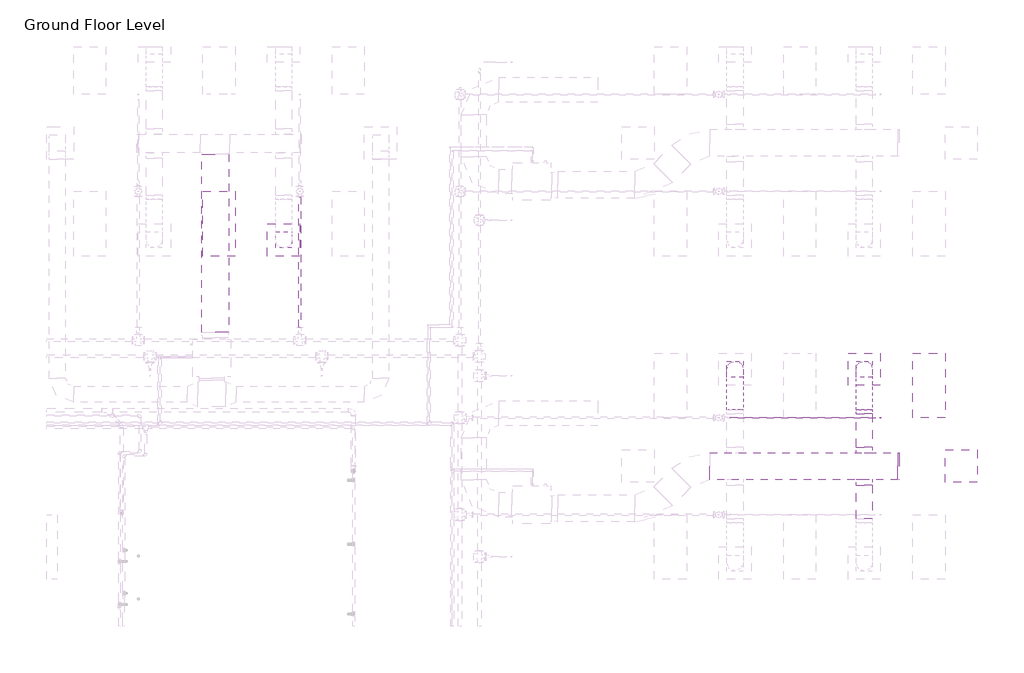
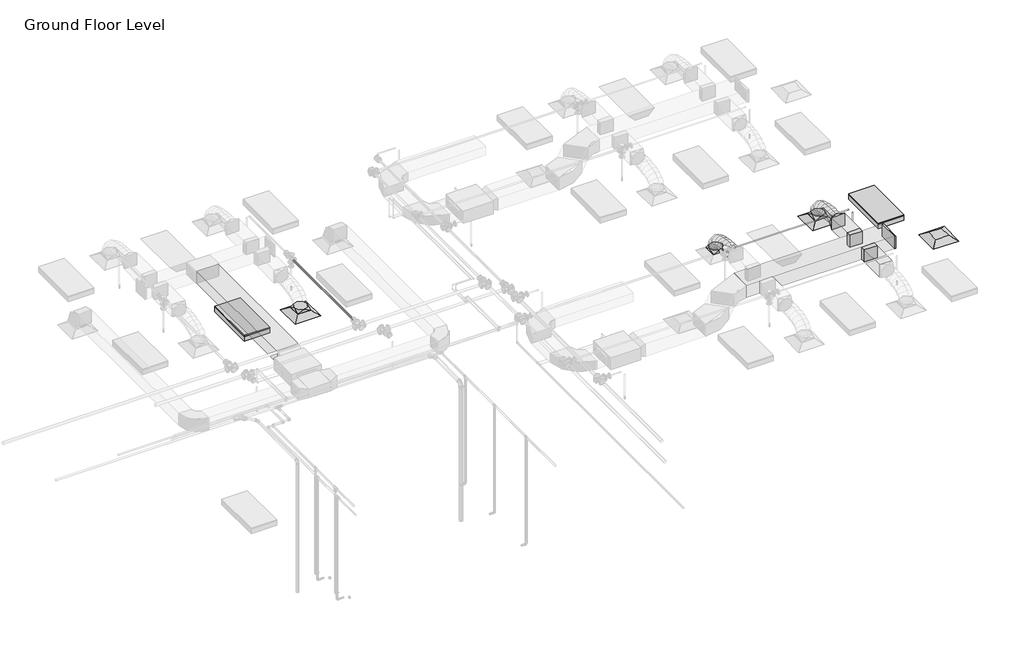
# One storey, part 70 of 74: 7 duct fittings, 6 duct segments, 3 air terminals, 3 pipe segments, 2 light fixtures, 1 fire suppression terminal.
"""IFC4 building model written with IfcOpenShell, lengths in millimetres."""

from ifc_helpers import new_model, si_unit, point, frame, frame_2d, origin, place, context, project, spatial, polyline, circle_curve, ellipse_curve, trimmed, segment, composite_curve, outline, extrude, transform, mapped, element, save
from ifc_brep_helpers import plane_surface, cylinder_surface, advanced_brep
from components import m_return_diffuser_600_x_600_face_300_x_300_connection_ff221211, m_rectangular_endcap_standard_72d4d00d, m_rectangular_takeoff_standard_cb0ccb98, m_rectangular_takeoff_standard_2be5eba1, m_rectangular_to_round_transition_angle_45_degree_641efff0, m_sprinkler_dry_pendent_hosted_15_mm_dry_pendent_9bda8e11, m_troffer_light_parabolic_rectangular1_0600x1200mm_4_lamp_86473d4a

model = new_model("IFC4")

# Units and contexts
model_context = context("Model", 3, world=origin())
ifc_project = project(units=[si_unit("LENGTHUNIT", "METRE", prefix="MILLI")], contexts=[model_context])

# Site, building, storey
site = spatial("IfcSite", under=ifc_project)
building = spatial("IfcBuilding", under=site)
storey = spatial("IfcBuildingStorey", under=building, Name="Ground Floor Level", Elevation=900.0)

# Air terminals
placement = place(None, origin())
m_return_diffuser_600_x_600_face_300_x_300_connection_shape = m_return_diffuser_600_x_600_face_300_x_300_connection_ff221211(model_context)
element("IfcAirTerminal", 1, ObjectType="M_Return Diffuser : 600 x 600 Face 300 x 300 Connection", at=placement, inside=storey, context=model_context, shape_type="MappedRepresentation", body=[
    mapped(m_return_diffuser_600_x_600_face_300_x_300_connection_shape, transform((14942.7672395, 12735.2153534, 3650.0), x_axis=(1.0, 0.0, 0.0), y_axis=(0.0, 1.0, 0.0), z_axis=(0.0, 0.0, 1.0))),
])
element("IfcAirTerminal", 2, ObjectType="M_Supply Diffuser : 600 x 600 Face 300 x 300 Connection", at=placement, inside=storey, context=model_context, shape_type="MappedRepresentation", body=[
    mapped(m_return_diffuser_600_x_600_face_300_x_300_connection_shape, transform((2362.7672395, 16935.2153534, 3650.0), x_axis=(1.0, 0.0, 0.0), y_axis=(0.0, 1.0, 0.0), z_axis=(0.0, 0.0, 1.0))),
])
element("IfcAirTerminal", 3, ObjectType="M_Supply Diffuser : 600 x 600 Face 300 x 300 Connection", at=placement, inside=storey, context=model_context, shape_type="MappedRepresentation", body=[
    mapped(m_return_diffuser_600_x_600_face_300_x_300_connection_shape, transform((13142.7672395, 14535.2153534, 3650.0), x_axis=(1.0, 0.0, 0.0), y_axis=(0.0, 1.0, 0.0), z_axis=(0.0, 0.0, 1.0))),
])

# Duct fittings
m_rectangular_endcap_standard_shape = m_rectangular_endcap_standard_72d4d00d(model_context)
element("IfcDuctFitting", 4, ObjectType="M_Rectangular Endcap : Standard", at=placement, inside=storey, context=model_context, shape_type="MappedRepresentation", body=[
    mapped(m_rectangular_endcap_standard_shape, transform((13766.7301365, 12735.2153534, 4100.0), x_axis=(1.0, 0.0, 0.0), y_axis=(0.0, 1.0, 0.0), z_axis=(0.0, 0.0, 1.0))),
])
m_rectangular_takeoff_standard_shape = m_rectangular_takeoff_standard_cb0ccb98(model_context)
element("IfcDuctFitting", 5, ObjectType="M_Rectangular Takeoff : Standard", at=placement, inside=storey, context=model_context, shape_type="MappedRepresentation", body=[
    mapped(m_rectangular_takeoff_standard_shape, transform((13142.7672395, 12985.2153534, 4100.0), x_axis=(0.0, 1.0, 0.0), y_axis=(1.0, 0.0, 0.0), z_axis=(0.0, 0.0, -1.0))),
])
m_rectangular_takeoff_standard_2_shape = m_rectangular_takeoff_standard_2be5eba1(model_context)
element("IfcDuctFitting", 6, ObjectType="M_Rectangular Takeoff : Standard", at=placement, inside=storey, context=model_context, shape_type="MappedRepresentation", body=[
    mapped(m_rectangular_takeoff_standard_2_shape, transform((13142.7672395, 12485.2153534, 4100.0), x_axis=(0.0, -1.0, 0.0), y_axis=(-1.0, 0.0, 0.0), z_axis=(0.0, 0.0, -1.0))),
])
m_rectangular_to_round_transition_angle_45_degree_shape = m_rectangular_to_round_transition_angle_45_degree_641efff0(model_context)
element("IfcDuctFitting", 7, ObjectType="M_Rectangular to Round Transition - Angle : 45 Degree", at=placement, inside=storey, context=model_context, shape_type="MappedRepresentation", body=[
    mapped(m_rectangular_to_round_transition_angle_45_degree_shape, transform((2362.7672395, 16935.2153534, 3751.6), x_axis=(0.0, 0.0, 1.0), y_axis=(-1.0, 0.0, 0.0), z_axis=(0.0, -1.0, 0.0))),
])
element("IfcDuctFitting", 8, ObjectType="M_Rectangular to Round Transition - Angle : 45 Degree", at=placement, inside=storey, context=model_context, shape_type="MappedRepresentation", body=[
    mapped(m_rectangular_to_round_transition_angle_45_degree_shape, transform((10742.7672395, 14535.2153534, 3751.6), x_axis=(0.0, 0.0, 1.0), y_axis=(-1.0, 0.0, 0.0), z_axis=(0.0, -1.0, 0.0))),
])
element("IfcDuctFitting", 9, ObjectType="M_Rectangular to Round Transition - Angle : 45 Degree", at=placement, inside=storey, context=model_context, shape_type="MappedRepresentation", body=[
    mapped(m_rectangular_to_round_transition_angle_45_degree_shape, transform((13142.7672395, 14535.2153534, 3751.6), x_axis=(0.0, 0.0, 1.0), y_axis=(-1.0, 0.0, 0.0), z_axis=(0.0, -1.0, 0.0))),
])
element("IfcDuctFitting", 10, ObjectType="M_Rectangular to Round Transition - Angle : 45 Degree", at=placement, inside=storey, context=model_context, shape_type="MappedRepresentation", body=[
    mapped(m_rectangular_to_round_transition_angle_45_degree_shape, transform((13142.7672395, 13707.8794221, 4100.0), x_axis=(0.0, 1.0, 0.0), y_axis=(-1.0, 0.0, 0.0), z_axis=(0.0, 0.0, 1.0))),
])

# Duct segments
element("IfcDuctSegment", 11, ObjectType="Flex - Round", at=placement, inside=storey, context=model_context, shape_type="AdvancedBrep", body=[
    advanced_brep(
    [(10892.7672395, 14535.2153534, 3826.6), (10742.7672395, 14385.2153534, 3826.6), (10592.7672395, 14535.2153534, 3826.6), (10742.7672395, 14685.2153534, 3826.6), (10892.7672395, 14535.2153534, 3857.9377114), (10742.7672395, 14385.2153534, 3832.2944892), (10592.7672395, 14535.2153534, 3857.9377114), (10742.7672395, 14685.2153534, 3883.5809337), (10892.7672395, 14518.1994208, 3906.2505728), (10742.7672395, 14384.4614419, 3834.435049), (10592.7672395, 14518.1994208, 3906.2505728), (10742.7672395, 14651.9373998, 3978.0660967), (10892.7672395, 14471.0155405, 3968.7113131), (10742.7672395, 14366.8096412, 3857.8020236), (10592.7672395, 14471.0155405, 3968.7113131), (10742.7672395, 14575.2214397, 4079.6206026), (10892.7672395, 14399.4595883, 4016.0700639), (10742.7672395, 14330.5255327, 3881.8163788), (10592.7672395, 14399.4595883, 4016.0700639), (10742.7672395, 14468.3936439, 4150.3237489), (10892.7672395, 14309.3274403, 4050.4146682), (10742.7672395, 14265.7666771, 3906.4925606), (10592.7672395, 14309.3274403, 4050.4146682), (10742.7672395, 14352.8882035, 4194.3367758), (10892.7672395, 14206.4149725, 4073.8329691), (10742.7672395, 14179.8540485, 3926.0424542), (10592.7672395, 14206.4149725, 4073.8329691), (10742.7672395, 14232.9758965, 4221.6234841), (10892.7672395, 14096.5180607, 4088.4128097), (10742.7672395, 14081.3671584, 3939.1085462), (10592.7672395, 14096.5180607, 4088.4128097), (10742.7672395, 14111.6689631, 4237.7170733), (10892.7672395, 13985.4325811, 4096.242033), (10742.7672395, 13977.9272529, 3946.398915), (10592.7672395, 13985.4325811, 4096.242033), (10742.7672395, 13992.9379093, 4246.085151), (10892.7672395, 13878.9544096, 4099.4084821), (10742.7672395, 13876.2629165, 3949.4222102), (10592.7672395, 13878.9544096, 4099.4084821), (10742.7672395, 13881.6459027, 4249.394754), (10892.7672395, 13782.8794221, 4100.0), (10742.7672395, 13783.8029299, 4249.9971571), (10592.7672395, 13782.8794221, 4100.0), (10742.7672395, 13781.9559143, 3950.0028429)],
    [
        (0, 1, circle_curve(frame((10742.7672395, 14535.2153534, 3826.6), z_axis=(0.0, 0.0, -1.0), x_axis=(1.0, 0.0, 0.0)), 150.0)),
        (1, 2, circle_curve(frame((10742.7672395, 14535.2153534, 3826.6), z_axis=(0.0, 0.0, -1.0), x_axis=(1.0, 0.0, 0.0)), 150.0)),
        (2, 3, circle_curve(frame((10742.7672395, 14535.2153534, 3826.6), z_axis=(0.0, 0.0, -1.0), x_axis=(1.0, 0.0, 0.0)), 150.0)),
        (3, 0, circle_curve(frame((10742.7672395, 14535.2153534, 3826.6), z_axis=(0.0, 0.0, -1.0), x_axis=(1.0, 0.0, 0.0)), 150.0)),
        (0, 4),
        (4, 5, ellipse_curve(frame((10742.7672395, 14535.2153534, 3857.9377114), z_axis=(0.0, 0.16851014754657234, -0.9856999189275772), x_axis=(0.0, -0.9856999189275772, -0.1685101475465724)), 152.176131, 150.0)),
        (5, 1),
        (5, 6, ellipse_curve(frame((10742.7672395, 14535.2153534, 3857.9377114), z_axis=(0.0, 0.16851014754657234, -0.9856999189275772), x_axis=(0.0, -0.9856999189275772, -0.1685101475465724)), 152.176131, 150.0)),
        (6, 2),
        (6, 7, ellipse_curve(frame((10742.7672395, 14535.2153534, 3857.9377114), z_axis=(0.0, 0.16851014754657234, -0.9856999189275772), x_axis=(0.0, -0.9856999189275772, -0.1685101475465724)), 152.176131, 150.0)),
        (7, 3),
        (7, 4, ellipse_curve(frame((10742.7672395, 14535.2153534, 3857.9377114), z_axis=(0.0, 0.16851014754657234, -0.9856999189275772), x_axis=(0.0, -0.9856999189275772, -0.1685101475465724)), 152.176131, 150.0)),
        (4, 8),
        (8, 9, ellipse_curve(frame((10742.7672395, 14518.1994208, 3906.2505728), z_axis=(0.0, 0.47309225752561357, -0.8810128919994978), x_axis=(0.0, -0.8810128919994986, -0.47309225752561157)), 151.8002519, 150.0)),
        (9, 5),
        (9, 10, ellipse_curve(frame((10742.7672395, 14518.1994208, 3906.2505728), z_axis=(0.0, 0.47309225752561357, -0.8810128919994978), x_axis=(0.0, -0.8810128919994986, -0.47309225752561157)), 151.8002519, 150.0)),
        (10, 6),
        (10, 11, ellipse_curve(frame((10742.7672395, 14518.1994208, 3906.2505728), z_axis=(0.0, 0.47309225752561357, -0.8810128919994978), x_axis=(0.0, -0.8810128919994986, -0.47309225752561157)), 151.8002519, 150.0)),
        (11, 7),
        (11, 8, ellipse_curve(frame((10742.7672395, 14518.1994208, 3906.2505728), z_axis=(0.0, 0.47309225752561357, -0.8810128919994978), x_axis=(0.0, -0.8810128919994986, -0.47309225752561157)), 151.8002519, 150.0)),
        (8, 12),
        (12, 13, ellipse_curve(frame((10742.7672395, 14471.0155405, 3968.7113131), z_axis=(0.0, 0.7287877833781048, -0.6847396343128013), x_axis=(0.0, -0.6847396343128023, -0.7287877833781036)), 152.1832446, 150.0)),
        (13, 9),
        (13, 14, ellipse_curve(frame((10742.7672395, 14471.0155405, 3968.7113131), z_axis=(0.0, 0.7287877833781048, -0.6847396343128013), x_axis=(0.0, -0.6847396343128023, -0.7287877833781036)), 152.1832446, 150.0)),
        (14, 10),
        (14, 15, ellipse_curve(frame((10742.7672395, 14471.0155405, 3968.7113131), z_axis=(0.0, 0.7287877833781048, -0.6847396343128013), x_axis=(0.0, -0.6847396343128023, -0.7287877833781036)), 152.1832446, 150.0)),
        (15, 11),
        (15, 12, ellipse_curve(frame((10742.7672395, 14471.0155405, 3968.7113131), z_axis=(0.0, 0.7287877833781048, -0.6847396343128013), x_axis=(0.0, -0.6847396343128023, -0.7287877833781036)), 152.1832446, 150.0)),
        (12, 16),
        (16, 17, ellipse_curve(frame((10742.7672395, 14399.4595883, 4016.0700639), z_axis=(0.0, 0.8895859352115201, -0.45676784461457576), x_axis=(0.0, -0.45676784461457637, -0.8895859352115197)), 150.91705, 150.0)),
        (17, 13),
        (17, 18, ellipse_curve(frame((10742.7672395, 14399.4595883, 4016.0700639), z_axis=(0.0, 0.8895859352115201, -0.45676784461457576), x_axis=(0.0, -0.45676784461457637, -0.8895859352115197)), 150.91705, 150.0)),
        (18, 14),
        (18, 19, ellipse_curve(frame((10742.7672395, 14399.4595883, 4016.0700639), z_axis=(0.0, 0.8895859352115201, -0.45676784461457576), x_axis=(0.0, -0.45676784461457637, -0.8895859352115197)), 150.91705, 150.0)),
        (19, 15),
        (19, 16, ellipse_curve(frame((10742.7672395, 14399.4595883, 4016.0700639), z_axis=(0.0, 0.8895859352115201, -0.45676784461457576), x_axis=(0.0, -0.45676784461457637, -0.8895859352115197)), 150.91705, 150.0)),
        (16, 20),
        (20, 21, ellipse_curve(frame((10742.7672395, 14309.3274403, 4050.4146682), z_axis=(0.0, 0.9571203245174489, -0.2896906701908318), x_axis=(0.0, -0.28969067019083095, -0.9571203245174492)), 150.369921, 150.0)),
        (21, 17),
        (21, 22, ellipse_curve(frame((10742.7672395, 14309.3274403, 4050.4146682), z_axis=(0.0, 0.9571203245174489, -0.2896906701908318), x_axis=(0.0, -0.28969067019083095, -0.9571203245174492)), 150.369921, 150.0)),
        (22, 18),
        (22, 23, ellipse_curve(frame((10742.7672395, 14309.3274403, 4050.4146682), z_axis=(0.0, 0.9571203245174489, -0.2896906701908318), x_axis=(0.0, -0.28969067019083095, -0.9571203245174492)), 150.369921, 150.0)),
        (23, 19),
        (23, 20, ellipse_curve(frame((10742.7672395, 14309.3274403, 4050.4146682), z_axis=(0.0, 0.9571203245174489, -0.2896906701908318), x_axis=(0.0, -0.28969067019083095, -0.9571203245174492)), 150.369921, 150.0)),
        (20, 24),
        (24, 25, ellipse_curve(frame((10742.7672395, 14206.4149725, 4073.8329691), z_axis=(0.0, 0.9842313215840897, -0.17688613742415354), x_axis=(0.0, -0.1768861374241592, -0.9842313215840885)), 150.1583131, 150.0)),
        (25, 21),
        (25, 26, ellipse_curve(frame((10742.7672395, 14206.4149725, 4073.8329691), z_axis=(0.0, 0.9842313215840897, -0.17688613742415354), x_axis=(0.0, -0.1768861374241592, -0.9842313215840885)), 150.1583131, 150.0)),
        (26, 22),
        (26, 27, ellipse_curve(frame((10742.7672395, 14206.4149725, 4073.8329691), z_axis=(0.0, 0.9842313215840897, -0.17688613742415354), x_axis=(0.0, -0.1768861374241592, -0.9842313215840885)), 150.1583131, 150.0)),
        (27, 23),
        (27, 24, ellipse_curve(frame((10742.7672395, 14206.4149725, 4073.8329691), z_axis=(0.0, 0.9842313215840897, -0.17688613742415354), x_axis=(0.0, -0.1768861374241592, -0.9842313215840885)), 150.1583131, 150.0)),
        (24, 28),
        (28, 29, ellipse_curve(frame((10742.7672395, 14096.5180607, 4088.4128097), z_axis=(0.0, 0.9948906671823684, -0.10095821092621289), x_axis=(0.0, -0.10095821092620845, -0.9948906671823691)), 150.0710264, 150.0)),
        (29, 25),
        (29, 30, ellipse_curve(frame((10742.7672395, 14096.5180607, 4088.4128097), z_axis=(0.0, 0.9948906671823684, -0.10095821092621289), x_axis=(0.0, -0.10095821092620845, -0.9948906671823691)), 150.0710264, 150.0)),
        (30, 26),
        (30, 31, ellipse_curve(frame((10742.7672395, 14096.5180607, 4088.4128097), z_axis=(0.0, 0.9948906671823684, -0.10095821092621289), x_axis=(0.0, -0.10095821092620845, -0.9948906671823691)), 150.0710264, 150.0)),
        (31, 27),
        (31, 28, ellipse_curve(frame((10742.7672395, 14096.5180607, 4088.4128097), z_axis=(0.0, 0.9948906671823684, -0.10095821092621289), x_axis=(0.0, -0.10095821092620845, -0.9948906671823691)), 150.0710264, 150.0)),
        (28, 32),
        (32, 33, ellipse_curve(frame((10742.7672395, 13985.4325811, 4096.242033), z_axis=(0.0, 0.9987479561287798, -0.050025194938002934), x_axis=(0.0, -0.05002519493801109, -0.9987479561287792)), 150.0309634, 150.0)),
        (33, 29),
        (33, 34, ellipse_curve(frame((10742.7672395, 13985.4325811, 4096.242033), z_axis=(0.0, 0.9987479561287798, -0.050025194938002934), x_axis=(0.0, -0.05002519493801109, -0.9987479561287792)), 150.0309634, 150.0)),
        (34, 30),
        (34, 35, ellipse_curve(frame((10742.7672395, 13985.4325811, 4096.242033), z_axis=(0.0, 0.9987479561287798, -0.050025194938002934), x_axis=(0.0, -0.05002519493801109, -0.9987479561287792)), 150.0309634, 150.0)),
        (35, 31),
        (35, 32, ellipse_curve(frame((10742.7672395, 13985.4325811, 4096.242033), z_axis=(0.0, 0.9987479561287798, -0.050025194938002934), x_axis=(0.0, -0.05002519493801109, -0.9987479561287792)), 150.0309634, 150.0)),
        (32, 36),
        (36, 37, ellipse_curve(frame((10742.7672395, 13878.9544096, 4099.4084821), z_axis=(0.0, 0.9998390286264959, -0.017942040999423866), x_axis=(0.0, -0.017942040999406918, -0.9998390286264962)), 150.0104193, 150.0)),
        (37, 33),
        (37, 38, ellipse_curve(frame((10742.7672395, 13878.9544096, 4099.4084821), z_axis=(0.0, 0.9998390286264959, -0.017942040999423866), x_axis=(0.0, -0.017942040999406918, -0.9998390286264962)), 150.0104193, 150.0)),
        (38, 34),
        (38, 39, ellipse_curve(frame((10742.7672395, 13878.9544096, 4099.4084821), z_axis=(0.0, 0.9998390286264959, -0.017942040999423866), x_axis=(0.0, -0.017942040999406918, -0.9998390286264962)), 150.0104193, 150.0)),
        (39, 35),
        (39, 36, ellipse_curve(frame((10742.7672395, 13878.9544096, 4099.4084821), z_axis=(0.0, 0.9998390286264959, -0.017942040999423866), x_axis=(0.0, -0.017942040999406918, -0.9998390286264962)), 150.0104193, 150.0)),
        (40, 41, circle_curve(frame((10742.7672395, 13782.8794221, 4100.0), z_axis=(0.0, -0.9999810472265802, 0.006156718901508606), x_axis=(1.0, 0.0, 0.0)), 150.0)),
        (41, 42, circle_curve(frame((10742.7672395, 13782.8794221, 4100.0), z_axis=(0.0, -0.9999810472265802, 0.006156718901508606), x_axis=(1.0, 0.0, 0.0)), 150.0)),
        (42, 43, circle_curve(frame((10742.7672395, 13782.8794221, 4100.0), z_axis=(0.0, -0.9999810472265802, 0.006156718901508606), x_axis=(1.0, 0.0, 0.0)), 150.0)),
        (43, 40, circle_curve(frame((10742.7672395, 13782.8794221, 4100.0), z_axis=(0.0, -0.9999810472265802, 0.006156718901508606), x_axis=(1.0, 0.0, 0.0)), 150.0)),
        (36, 40),
        (43, 37),
        (42, 38),
        (41, 39),
    ],
    [
        plane_surface(frame((10742.7672395, 14385.2153534, 3826.6), z_axis=(0.0, 0.0, -1.0), x_axis=(1.0, 0.0, 0.0))),
        cylinder_surface(frame((10742.7672395, 14535.2153534, 3826.6), z_axis=(0.0, 0.0, -1.0), x_axis=(1.0, 0.0, 0.0)), 150.0),
        cylinder_surface(frame((10742.7672395, 14535.2153534, 3857.9377114), z_axis=(0.0, 0.3322008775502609, -0.9432086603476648), x_axis=(1.0, 0.0, 0.0)), 150.0),
        cylinder_surface(frame((10742.7672395, 14518.1994208, 3906.2505728), z_axis=(0.0, 0.6027625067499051, -0.7979206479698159), x_axis=(1.0, 0.0, 0.0)), 150.0),
        cylinder_surface(frame((10742.7672395, 14471.0155405, 3968.7113131), z_axis=(0.0, 0.833902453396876, -0.5519118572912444), x_axis=(1.0, 0.0, 0.0)), 150.0),
        cylinder_surface(frame((10742.7672395, 14399.4595883, 4016.0700639), z_axis=(0.0, 0.9344582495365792, -0.35607271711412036), x_axis=(1.0, 0.0, 0.0)), 150.0),
        cylinder_surface(frame((10742.7672395, 14309.3274403, 4050.4146682), z_axis=(0.0, 0.9750732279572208, -0.22188330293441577), x_axis=(1.0, 0.0, 0.0)), 150.0),
        cylinder_surface(frame((10742.7672395, 14206.4149725, 4073.8329691), z_axis=(0.0, 0.9913140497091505, -0.131515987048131), x_axis=(1.0, 0.0, 0.0)), 150.0),
        cylinder_surface(frame((10742.7672395, 14096.5180607, 4088.4128097), z_axis=(0.0, 0.9975255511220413, -0.07030487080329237), x_axis=(1.0, 0.0, 0.0)), 150.0),
        cylinder_surface(frame((10742.7672395, 13985.4325811, 4096.242033), z_axis=(0.0, 0.9995581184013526, -0.029724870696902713), x_axis=(1.0, 0.0, 0.0)), 150.0),
        plane_surface(frame((10742.7672395, 13781.9559143, 3950.0028429), z_axis=(0.0, -0.9999810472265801, 0.0061567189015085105), x_axis=(1.0, 0.0, 0.0))),
        cylinder_surface(frame((10742.7672395, 13878.9544096, 4099.4084821), z_axis=(0.0, 0.9999810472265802, -0.006156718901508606), x_axis=(1.0, 0.0, 0.0)), 150.0),
    ],
    [
        (0, [[1, 2, 3, 4]]),
        (1, [[-1, 5, 6, 7]]),
        (1, [[-2, -7, 8, 9]]),
        (1, [[-3, -9, 10, 11]]),
        (1, [[-4, -11, 12, -5]]),
        (2, [[-6, 13, 14, 15]]),
        (2, [[-8, -15, 16, 17]]),
        (2, [[-10, -17, 18, 19]]),
        (2, [[-12, -19, 20, -13]]),
        (3, [[-14, 21, 22, 23]]),
        (3, [[-16, -23, 24, 25]]),
        (3, [[-18, -25, 26, 27]]),
        (3, [[-20, -27, 28, -21]]),
        (4, [[-22, 29, 30, 31]]),
        (4, [[-24, -31, 32, 33]]),
        (4, [[-26, -33, 34, 35]]),
        (4, [[-28, -35, 36, -29]]),
        (5, [[-30, 37, 38, 39]]),
        (5, [[-32, -39, 40, 41]]),
        (5, [[-34, -41, 42, 43]]),
        (5, [[-36, -43, 44, -37]]),
        (6, [[-38, 45, 46, 47]]),
        (6, [[-40, -47, 48, 49]]),
        (6, [[-42, -49, 50, 51]]),
        (6, [[-44, -51, 52, -45]]),
        (7, [[-46, 53, 54, 55]]),
        (7, [[-48, -55, 56, 57]]),
        (7, [[-50, -57, 58, 59]]),
        (7, [[-52, -59, 60, -53]]),
        (8, [[-54, 61, 62, 63]]),
        (8, [[-56, -63, 64, 65]]),
        (8, [[-58, -65, 66, 67]]),
        (8, [[-60, -67, 68, -61]]),
        (9, [[-62, 69, 70, 71]]),
        (9, [[-64, -71, 72, 73]]),
        (9, [[-66, -73, 74, 75]]),
        (9, [[-68, -75, 76, -69]]),
        (10, [[77, 78, 79, 80]]),
        (11, [[-70, 81, -80, 82]]),
        (11, [[-72, -82, -79, 83]]),
        (11, [[-74, -83, -78, 84]]),
        (11, [[-76, -84, -77, -81]]),
    ],
),
])
element("IfcDuctSegment", 12, ObjectType="Flex - Round", at=placement, inside=storey, context=model_context, shape_type="AdvancedBrep", body=[
    advanced_brep(
    [(13292.7672395, 14535.2153534, 3826.6), (13142.7672395, 14385.2153534, 3826.6), (12992.7672395, 14535.2153534, 3826.6), (13142.7672395, 14685.2153534, 3826.6), (13292.7672395, 14535.2153534, 3857.9377114), (13142.7672395, 14385.2153534, 3832.2944892), (12992.7672395, 14535.2153534, 3857.9377114), (13142.7672395, 14685.2153534, 3883.5809337), (13292.7672395, 14518.1994208, 3906.2505728), (13142.7672395, 14384.4614419, 3834.435049), (12992.7672395, 14518.1994208, 3906.2505728), (13142.7672395, 14651.9373998, 3978.0660967), (13292.7672395, 14471.0155405, 3968.7113131), (13142.7672395, 14366.8096412, 3857.8020236), (12992.7672395, 14471.0155405, 3968.7113131), (13142.7672395, 14575.2214397, 4079.6206026), (13292.7672395, 14399.4595883, 4016.0700639), (13142.7672395, 14330.5255327, 3881.8163788), (12992.7672395, 14399.4595883, 4016.0700639), (13142.7672395, 14468.3936439, 4150.3237489), (13292.7672395, 14309.3274403, 4050.4146682), (13142.7672395, 14265.7666771, 3906.4925606), (12992.7672395, 14309.3274403, 4050.4146682), (13142.7672395, 14352.8882035, 4194.3367758), (13292.7672395, 14206.4149725, 4073.8329691), (13142.7672395, 14179.8540485, 3926.0424542), (12992.7672395, 14206.4149725, 4073.8329691), (13142.7672395, 14232.9758965, 4221.6234841), (13292.7672395, 14096.5180607, 4088.4128097), (13142.7672395, 14081.3671584, 3939.1085462), (12992.7672395, 14096.5180607, 4088.4128097), (13142.7672395, 14111.6689631, 4237.7170733), (13292.7672395, 13985.4325811, 4096.242033), (13142.7672395, 13977.9272529, 3946.398915), (12992.7672395, 13985.4325811, 4096.242033), (13142.7672395, 13992.9379093, 4246.085151), (13292.7672395, 13878.9544096, 4099.4084821), (13142.7672395, 13876.2629165, 3949.4222102), (12992.7672395, 13878.9544096, 4099.4084821), (13142.7672395, 13881.6459027, 4249.394754), (13292.7672395, 13782.8794221, 4100.0), (13142.7672395, 13783.8029299, 4249.9971571), (12992.7672395, 13782.8794221, 4100.0), (13142.7672395, 13781.9559143, 3950.0028429)],
    [
        (0, 1, circle_curve(frame((13142.7672395, 14535.2153534, 3826.6), z_axis=(0.0, 0.0, -1.0), x_axis=(1.0, 0.0, 0.0)), 150.0)),
        (1, 2, circle_curve(frame((13142.7672395, 14535.2153534, 3826.6), z_axis=(0.0, 0.0, -1.0), x_axis=(1.0, 0.0, 0.0)), 150.0)),
        (2, 3, circle_curve(frame((13142.7672395, 14535.2153534, 3826.6), z_axis=(0.0, 0.0, -1.0), x_axis=(1.0, 0.0, 0.0)), 150.0)),
        (3, 0, circle_curve(frame((13142.7672395, 14535.2153534, 3826.6), z_axis=(0.0, 0.0, -1.0), x_axis=(1.0, 0.0, 0.0)), 150.0)),
        (0, 4),
        (4, 5, ellipse_curve(frame((13142.7672395, 14535.2153534, 3857.9377114), z_axis=(0.0, 0.16851014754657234, -0.9856999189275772), x_axis=(0.0, -0.9856999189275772, -0.1685101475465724)), 152.176131, 150.0)),
        (5, 1),
        (5, 6, ellipse_curve(frame((13142.7672395, 14535.2153534, 3857.9377114), z_axis=(0.0, 0.16851014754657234, -0.9856999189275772), x_axis=(0.0, -0.9856999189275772, -0.1685101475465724)), 152.176131, 150.0)),
        (6, 2),
        (6, 7, ellipse_curve(frame((13142.7672395, 14535.2153534, 3857.9377114), z_axis=(0.0, 0.16851014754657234, -0.9856999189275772), x_axis=(0.0, -0.9856999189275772, -0.1685101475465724)), 152.176131, 150.0)),
        (7, 3),
        (7, 4, ellipse_curve(frame((13142.7672395, 14535.2153534, 3857.9377114), z_axis=(0.0, 0.16851014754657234, -0.9856999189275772), x_axis=(0.0, -0.9856999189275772, -0.1685101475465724)), 152.176131, 150.0)),
        (4, 8),
        (8, 9, ellipse_curve(frame((13142.7672395, 14518.1994208, 3906.2505728), z_axis=(0.0, 0.47309225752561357, -0.8810128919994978), x_axis=(0.0, -0.8810128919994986, -0.47309225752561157)), 151.8002519, 150.0)),
        (9, 5),
        (9, 10, ellipse_curve(frame((13142.7672395, 14518.1994208, 3906.2505728), z_axis=(0.0, 0.47309225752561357, -0.8810128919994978), x_axis=(0.0, -0.8810128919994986, -0.47309225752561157)), 151.8002519, 150.0)),
        (10, 6),
        (10, 11, ellipse_curve(frame((13142.7672395, 14518.1994208, 3906.2505728), z_axis=(0.0, 0.47309225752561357, -0.8810128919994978), x_axis=(0.0, -0.8810128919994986, -0.47309225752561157)), 151.8002519, 150.0)),
        (11, 7),
        (11, 8, ellipse_curve(frame((13142.7672395, 14518.1994208, 3906.2505728), z_axis=(0.0, 0.47309225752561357, -0.8810128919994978), x_axis=(0.0, -0.8810128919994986, -0.47309225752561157)), 151.8002519, 150.0)),
        (8, 12),
        (12, 13, ellipse_curve(frame((13142.7672395, 14471.0155405, 3968.7113131), z_axis=(0.0, 0.7287877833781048, -0.6847396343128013), x_axis=(0.0, -0.6847396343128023, -0.7287877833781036)), 152.1832446, 150.0)),
        (13, 9),
        (13, 14, ellipse_curve(frame((13142.7672395, 14471.0155405, 3968.7113131), z_axis=(0.0, 0.7287877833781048, -0.6847396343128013), x_axis=(0.0, -0.6847396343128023, -0.7287877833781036)), 152.1832446, 150.0)),
        (14, 10),
        (14, 15, ellipse_curve(frame((13142.7672395, 14471.0155405, 3968.7113131), z_axis=(0.0, 0.7287877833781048, -0.6847396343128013), x_axis=(0.0, -0.6847396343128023, -0.7287877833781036)), 152.1832446, 150.0)),
        (15, 11),
        (15, 12, ellipse_curve(frame((13142.7672395, 14471.0155405, 3968.7113131), z_axis=(0.0, 0.7287877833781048, -0.6847396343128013), x_axis=(0.0, -0.6847396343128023, -0.7287877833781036)), 152.1832446, 150.0)),
        (12, 16),
        (16, 17, ellipse_curve(frame((13142.7672395, 14399.4595883, 4016.0700639), z_axis=(0.0, 0.8895859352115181, -0.4567678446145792), x_axis=(0.0, -0.4567678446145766, -0.8895859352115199)), 150.91705, 150.0)),
        (17, 13),
        (17, 18, ellipse_curve(frame((13142.7672395, 14399.4595883, 4016.0700639), z_axis=(0.0, 0.8895859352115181, -0.4567678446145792), x_axis=(0.0, -0.4567678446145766, -0.8895859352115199)), 150.91705, 150.0)),
        (18, 14),
        (18, 19, ellipse_curve(frame((13142.7672395, 14399.4595883, 4016.0700639), z_axis=(0.0, 0.8895859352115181, -0.4567678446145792), x_axis=(0.0, -0.4567678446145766, -0.8895859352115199)), 150.91705, 150.0)),
        (19, 15),
        (19, 16, ellipse_curve(frame((13142.7672395, 14399.4595883, 4016.0700639), z_axis=(0.0, 0.8895859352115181, -0.4567678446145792), x_axis=(0.0, -0.4567678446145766, -0.8895859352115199)), 150.91705, 150.0)),
        (16, 20),
        (20, 21, ellipse_curve(frame((13142.7672395, 14309.3274403, 4050.4146682), z_axis=(0.0, 0.9571203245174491, -0.2896906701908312), x_axis=(0.0, -0.2896906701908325, -0.9571203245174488)), 150.369921, 150.0)),
        (21, 17),
        (21, 22, ellipse_curve(frame((13142.7672395, 14309.3274403, 4050.4146682), z_axis=(0.0, 0.9571203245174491, -0.2896906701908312), x_axis=(0.0, -0.2896906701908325, -0.9571203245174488)), 150.369921, 150.0)),
        (22, 18),
        (22, 23, ellipse_curve(frame((13142.7672395, 14309.3274403, 4050.4146682), z_axis=(0.0, 0.9571203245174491, -0.2896906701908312), x_axis=(0.0, -0.2896906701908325, -0.9571203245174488)), 150.369921, 150.0)),
        (23, 19),
        (23, 20, ellipse_curve(frame((13142.7672395, 14309.3274403, 4050.4146682), z_axis=(0.0, 0.9571203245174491, -0.2896906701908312), x_axis=(0.0, -0.2896906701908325, -0.9571203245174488)), 150.369921, 150.0)),
        (20, 24),
        (24, 25, ellipse_curve(frame((13142.7672395, 14206.4149725, 4073.8329691), z_axis=(0.0, 0.9842313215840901, -0.17688613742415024), x_axis=(0.0, -0.1768861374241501, -0.9842313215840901)), 150.1583131, 150.0)),
        (25, 21),
        (25, 26, ellipse_curve(frame((13142.7672395, 14206.4149725, 4073.8329691), z_axis=(0.0, 0.9842313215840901, -0.17688613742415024), x_axis=(0.0, -0.1768861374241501, -0.9842313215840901)), 150.1583131, 150.0)),
        (26, 22),
        (26, 27, ellipse_curve(frame((13142.7672395, 14206.4149725, 4073.8329691), z_axis=(0.0, 0.9842313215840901, -0.17688613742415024), x_axis=(0.0, -0.1768861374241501, -0.9842313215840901)), 150.1583131, 150.0)),
        (27, 23),
        (27, 24, ellipse_curve(frame((13142.7672395, 14206.4149725, 4073.8329691), z_axis=(0.0, 0.9842313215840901, -0.17688613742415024), x_axis=(0.0, -0.1768861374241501, -0.9842313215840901)), 150.1583131, 150.0)),
        (24, 28),
        (28, 29, ellipse_curve(frame((13142.7672395, 14096.5180607, 4088.4128097), z_axis=(0.0, 0.9948906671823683, -0.10095821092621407), x_axis=(0.0, -0.10095821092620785, -0.994890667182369)), 150.0710264, 150.0)),
        (29, 25),
        (29, 30, ellipse_curve(frame((13142.7672395, 14096.5180607, 4088.4128097), z_axis=(0.0, 0.9948906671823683, -0.10095821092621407), x_axis=(0.0, -0.10095821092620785, -0.994890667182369)), 150.0710264, 150.0)),
        (30, 26),
        (30, 31, ellipse_curve(frame((13142.7672395, 14096.5180607, 4088.4128097), z_axis=(0.0, 0.9948906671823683, -0.10095821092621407), x_axis=(0.0, -0.10095821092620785, -0.994890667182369)), 150.0710264, 150.0)),
        (31, 27),
        (31, 28, ellipse_curve(frame((13142.7672395, 14096.5180607, 4088.4128097), z_axis=(0.0, 0.9948906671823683, -0.10095821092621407), x_axis=(0.0, -0.10095821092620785, -0.994890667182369)), 150.0710264, 150.0)),
        (28, 32),
        (32, 33, ellipse_curve(frame((13142.7672395, 13985.4325811, 4096.242033), z_axis=(0.0, 0.9987479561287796, -0.05002519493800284), x_axis=(0.0, -0.05002519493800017, -0.9987479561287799)), 150.0309634, 150.0)),
        (33, 29),
        (33, 34, ellipse_curve(frame((13142.7672395, 13985.4325811, 4096.242033), z_axis=(0.0, 0.9987479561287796, -0.05002519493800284), x_axis=(0.0, -0.05002519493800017, -0.9987479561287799)), 150.0309634, 150.0)),
        (34, 30),
        (34, 35, ellipse_curve(frame((13142.7672395, 13985.4325811, 4096.242033), z_axis=(0.0, 0.9987479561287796, -0.05002519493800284), x_axis=(0.0, -0.05002519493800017, -0.9987479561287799)), 150.0309634, 150.0)),
        (35, 31),
        (35, 32, ellipse_curve(frame((13142.7672395, 13985.4325811, 4096.242033), z_axis=(0.0, 0.9987479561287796, -0.05002519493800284), x_axis=(0.0, -0.05002519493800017, -0.9987479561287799)), 150.0309634, 150.0)),
        (32, 36),
        (36, 37, ellipse_curve(frame((13142.7672395, 13878.9544096, 4099.4084821), z_axis=(0.0, 0.9998390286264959, -0.01794204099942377), x_axis=(0.0, -0.01794204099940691, -0.9998390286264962)), 150.0104193, 150.0)),
        (37, 33),
        (37, 38, ellipse_curve(frame((13142.7672395, 13878.9544096, 4099.4084821), z_axis=(0.0, 0.9998390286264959, -0.01794204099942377), x_axis=(0.0, -0.01794204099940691, -0.9998390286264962)), 150.0104193, 150.0)),
        (38, 34),
        (38, 39, ellipse_curve(frame((13142.7672395, 13878.9544096, 4099.4084821), z_axis=(0.0, 0.9998390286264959, -0.01794204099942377), x_axis=(0.0, -0.01794204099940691, -0.9998390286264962)), 150.0104193, 150.0)),
        (39, 35),
        (39, 36, ellipse_curve(frame((13142.7672395, 13878.9544096, 4099.4084821), z_axis=(0.0, 0.9998390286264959, -0.01794204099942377), x_axis=(0.0, -0.01794204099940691, -0.9998390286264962)), 150.0104193, 150.0)),
        (40, 41, circle_curve(frame((13142.7672395, 13782.8794221, 4100.0), z_axis=(0.0, -0.9999810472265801, 0.006156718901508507), x_axis=(1.0, 0.0, 0.0)), 150.0)),
        (41, 42, circle_curve(frame((13142.7672395, 13782.8794221, 4100.0), z_axis=(0.0, -0.9999810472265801, 0.006156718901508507), x_axis=(1.0, 0.0, 0.0)), 150.0)),
        (42, 43, circle_curve(frame((13142.7672395, 13782.8794221, 4100.0), z_axis=(0.0, -0.9999810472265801, 0.006156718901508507), x_axis=(1.0, 0.0, 0.0)), 150.0)),
        (43, 40, circle_curve(frame((13142.7672395, 13782.8794221, 4100.0), z_axis=(0.0, -0.9999810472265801, 0.006156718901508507), x_axis=(1.0, 0.0, 0.0)), 150.0)),
        (36, 40),
        (43, 37),
        (42, 38),
        (41, 39),
    ],
    [
        plane_surface(frame((13142.7672395, 14385.2153534, 3826.6), z_axis=(0.0, 0.0, -1.0), x_axis=(1.0, 0.0, 0.0))),
        cylinder_surface(frame((13142.7672395, 14535.2153534, 3826.6), z_axis=(0.0, 0.0, -1.0), x_axis=(1.0, 0.0, 0.0)), 150.0),
        cylinder_surface(frame((13142.7672395, 14535.2153534, 3857.9377114), z_axis=(0.0, 0.3322008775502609, -0.9432086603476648), x_axis=(1.0, 0.0, 0.0)), 150.0),
        cylinder_surface(frame((13142.7672395, 14518.1994208, 3906.2505728), z_axis=(0.0, 0.6027625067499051, -0.7979206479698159), x_axis=(1.0, 0.0, 0.0)), 150.0),
        cylinder_surface(frame((13142.7672395, 14471.0155405, 3968.7113131), z_axis=(0.0, 0.833902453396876, -0.5519118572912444), x_axis=(1.0, 0.0, 0.0)), 150.0),
        cylinder_surface(frame((13142.7672395, 14399.4595883, 4016.0700639), z_axis=(0.0, 0.9344582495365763, -0.35607271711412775), x_axis=(1.0, 0.0, 0.0)), 150.0),
        cylinder_surface(frame((13142.7672395, 14309.3274403, 4050.4146682), z_axis=(0.0, 0.9750732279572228, -0.22188330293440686), x_axis=(1.0, 0.0, 0.0)), 150.0),
        cylinder_surface(frame((13142.7672395, 14206.4149725, 4073.8329691), z_axis=(0.0, 0.9913140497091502, -0.13151598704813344), x_axis=(1.0, 0.0, 0.0)), 150.0),
        cylinder_surface(frame((13142.7672395, 14096.5180607, 4088.4128097), z_axis=(0.0, 0.9975255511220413, -0.07030487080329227), x_axis=(1.0, 0.0, 0.0)), 150.0),
        cylinder_surface(frame((13142.7672395, 13985.4325811, 4096.242033), z_axis=(0.0, 0.9995581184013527, -0.02972487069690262), x_axis=(1.0, 0.0, 0.0)), 150.0),
        plane_surface(frame((13142.7672395, 13781.9559143, 3950.0028429), z_axis=(0.0, -0.9999810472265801, 0.0061567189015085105), x_axis=(1.0, 0.0, 0.0))),
        cylinder_surface(frame((13142.7672395, 13878.9544096, 4099.4084821), z_axis=(0.0, 0.9999810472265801, -0.006156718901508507), x_axis=(1.0, 0.0, 0.0)), 150.0),
    ],
    [
        (0, [[1, 2, 3, 4]]),
        (1, [[-1, 5, 6, 7]]),
        (1, [[-2, -7, 8, 9]]),
        (1, [[-3, -9, 10, 11]]),
        (1, [[-4, -11, 12, -5]]),
        (2, [[-6, 13, 14, 15]]),
        (2, [[-8, -15, 16, 17]]),
        (2, [[-10, -17, 18, 19]]),
        (2, [[-12, -19, 20, -13]]),
        (3, [[-14, 21, 22, 23]]),
        (3, [[-16, -23, 24, 25]]),
        (3, [[-18, -25, 26, 27]]),
        (3, [[-20, -27, 28, -21]]),
        (4, [[-22, 29, 30, 31]]),
        (4, [[-24, -31, 32, 33]]),
        (4, [[-26, -33, 34, 35]]),
        (4, [[-28, -35, 36, -29]]),
        (5, [[-30, 37, 38, 39]]),
        (5, [[-32, -39, 40, 41]]),
        (5, [[-34, -41, 42, 43]]),
        (5, [[-36, -43, 44, -37]]),
        (6, [[-38, 45, 46, 47]]),
        (6, [[-40, -47, 48, 49]]),
        (6, [[-42, -49, 50, 51]]),
        (6, [[-44, -51, 52, -45]]),
        (7, [[-46, 53, 54, 55]]),
        (7, [[-48, -55, 56, 57]]),
        (7, [[-50, -57, 58, 59]]),
        (7, [[-52, -59, 60, -53]]),
        (8, [[-54, 61, 62, 63]]),
        (8, [[-56, -63, 64, 65]]),
        (8, [[-58, -65, 66, 67]]),
        (8, [[-60, -67, 68, -61]]),
        (9, [[-62, 69, 70, 71]]),
        (9, [[-64, -71, 72, 73]]),
        (9, [[-66, -73, 74, 75]]),
        (9, [[-68, -75, 76, -69]]),
        (10, [[77, 78, 79, 80]]),
        (11, [[-70, 81, -80, 82]]),
        (11, [[-72, -82, -79, 83]]),
        (11, [[-74, -83, -78, 84]]),
        (11, [[-76, -84, -77, -81]]),
    ],
),
])
element("IfcDuctSegment", 13, ObjectType="Radius Elbows / Taps", at=placement, inside=storey, context=model_context, shape_type="SweptSolid", body=[
    extrude(outline(polyline([(1341.2672395, 15224.0945822), (841.2672395, 15224.0945822), (841.2672395, 18524.6783949), (1341.2672395, 18524.6783949), (1341.2672395, 15224.0945822)])), frame((0.0, 0.0, 3950.0), z_axis=(0.0, 0.0, 1.0), x_axis=(1.0, 0.0, 0.0)), (0.0, 0.0, 1.0), 300.0),
])
element("IfcDuctSegment", 14, ObjectType="Radius Elbows / Taps", at=placement, inside=storey, context=model_context, shape_type="SweptSolid", body=[
    extrude(outline(polyline([(10277.3903083, 12485.2153534), (10277.3903083, 12985.2153534), (13766.7301365, 12985.2153534), (13766.7301365, 12485.2153534), (10277.3903083, 12485.2153534)])), frame((0.0, 0.0, 3950.0), z_axis=(0.0, 0.0, 1.0), x_axis=(1.0, 0.0, 0.0)), (0.0, 0.0, 1.0), 300.0),
])
element("IfcDuctSegment", 15, ObjectType="Radius Elbows / Taps", at=placement, inside=storey, context=model_context, shape_type="SweptSolid", body=[
    extrude(outline(polyline([(13292.7672395, 13086.8153534), (12992.7672395, 13086.8153534), (12992.7672395, 13707.8794221), (13292.7672395, 13707.8794221), (13292.7672395, 13086.8153534)])), frame((0.0, 0.0, 3950.0), z_axis=(0.0, 0.0, 1.0), x_axis=(1.0, 0.0, 0.0)), (0.0, 0.0, 1.0), 300.0),
])
element("IfcDuctSegment", 16, ObjectType="Radius Elbows / Taps", at=placement, inside=storey, context=model_context, shape_type="SweptSolid", body=[
    extrude(outline(polyline([(12992.7672395, 12383.6153534), (13292.7672395, 12383.6153534), (13292.7672395, 11762.5512847), (12992.7672395, 11762.5512847), (12992.7672395, 12383.6153534)])), frame((0.0, 0.0, 3950.0), z_axis=(0.0, 0.0, 1.0), x_axis=(1.0, 0.0, 0.0)), (0.0, 0.0, 1.0), 300.0),
])

# Fire suppression terminal
m_sprinkler_dry_pendent_hosted_15_mm_dry_pendent_shape = m_sprinkler_dry_pendent_hosted_15_mm_dry_pendent_9bda8e11(model_context)
element("IfcFireSuppressionTerminal", 17, ObjectType="M_Sprinkler - Dry - Pendent - Hosted : 15 mm Dry Pendent", at=placement, inside=storey, context=model_context, shape_type="MappedRepresentation", body=[
    mapped(m_sprinkler_dry_pendent_hosted_15_mm_dry_pendent_shape, transform((13442.7672395, 13635.2153534, 3650.0), x_axis=(1.0, 0.0, 0.0), y_axis=(0.0, -1.0, 0.0), z_axis=(0.0, 0.0, -1.0))),
])

# Light fixtures
m_troffer_light_parabolic_rectangular1_0600x1200mm_4_lamp_shape = m_troffer_light_parabolic_rectangular1_0600x1200mm_4_lamp_86473d4a(model_context)
element("IfcLightFixture", 18, ObjectType="M_Troffer Light - Parabolic Rectangular1 : 0600x1200mm(4 Lamp) - 277V 2", at=placement, inside=storey, context=model_context, shape_type="MappedRepresentation", body=[
    mapped(m_troffer_light_parabolic_rectangular1_0600x1200mm_4_lamp_shape, transform((1103.3013074, 17253.918855, 3650.0), x_axis=(0.0, 1.0, 0.0), y_axis=(-1.0, 0.0, 0.0), z_axis=(0.0, 0.0, 1.0))),
])
element("IfcLightFixture", 19, ObjectType="M_Troffer Light - Parabolic Rectangular1 : 0600x1200mm(4 Lamp) - 277V 2", at=placement, inside=storey, context=model_context, shape_type="MappedRepresentation", body=[
    mapped(m_troffer_light_parabolic_rectangular1_0600x1200mm_4_lamp_shape, transform((14283.3013074, 14253.918855, 3650.0), x_axis=(0.0, 1.0, 0.0), y_axis=(-1.0, 0.0, 0.0), z_axis=(0.0, 0.0, 1.0))),
])

# Pipe segments
element("IfcPipeSegment", 20, ObjectType="Steel flanged", at=placement, inside=storey, context=model_context, shape_type="SweptSolid", body=[
    extrude(outline(composite_curve([segment(trimmed(circle_curve(frame_2d((4360.0, 2662.7672395)), 16.7005), [point((4360.0, 2646.0667395))], [point((4343.2995, 2662.7672395))], False, "CARTESIAN"), True, "CONTINUOUS"), segment(trimmed(circle_curve(frame_2d((4360.0, 2662.7672395)), 16.7005), [point((4343.2995, 2662.7672395))], [point((4360.0, 2679.4677395))], False, "CARTESIAN"), True, "CONTINUOUS"), segment(trimmed(circle_curve(frame_2d((4360.0, 2662.7672395)), 16.7005), [point((4360.0, 2679.4677395))], [point((4376.7005, 2662.7672395))], False, "CARTESIAN"), True, "CONTINUOUS"), segment(trimmed(circle_curve(frame_2d((4360.0, 2662.7672395)), 16.7005), [point((4376.7005, 2662.7672395))], [point((4360.0, 2646.0667395))], False, "CARTESIAN"), True, "CONTINUOUS")], self_intersect=False)), frame((0.0, 15314.2009828, 0.0), z_axis=(0.0, 1.0, 0.0), x_axis=(0.0, 0.0, 1.0)), (0.0, 0.0, 1.0), 2420.3057768),
])
element("IfcPipeSegment", 21, ObjectType="Steel flanged", at=placement, inside=storey, context=model_context, shape_type="SweptSolid", body=[
    extrude(outline(composite_curve([segment(trimmed(circle_curve(frame_2d((13442.7672395, 13635.2153534)), 10.668), [point((13432.0992395, 13635.2153534))], [point((13442.7672395, 13645.8833534))], False, "CARTESIAN"), True, "CONTINUOUS"), segment(trimmed(circle_curve(frame_2d((13442.7672395, 13635.2153534)), 10.668), [point((13442.7672395, 13645.8833534))], [point((13453.4352395, 13635.2153534))], False, "CARTESIAN"), True, "CONTINUOUS"), segment(trimmed(circle_curve(frame_2d((13442.7672395, 13635.2153534)), 10.668), [point((13453.4352395, 13635.2153534))], [point((13442.7672395, 13624.5473534))], False, "CARTESIAN"), True, "CONTINUOUS"), segment(trimmed(circle_curve(frame_2d((13442.7672395, 13635.2153534)), 10.668), [point((13442.7672395, 13624.5473534))], [point((13432.0992395, 13635.2153534))], False, "CARTESIAN"), True, "CONTINUOUS")], self_intersect=False)), frame((0.0, 0.0, 3650.0), z_axis=(0.0, 0.0, 1.0), x_axis=(1.0, 0.0, 0.0)), (0.0, 0.0, 1.0), 616.9914062),
])
element("IfcPipeSegment", 22, ObjectType="Steel flanged", at=placement, inside=storey, context=model_context, shape_type="SweptSolid", body=[
    extrude(outline(composite_curve([segment(trimmed(circle_curve(frame_2d((13635.2153534, 4360.0)), 10.668), [point((13645.8833534, 4360.0))], [point((13635.2153534, 4349.332))], False, "CARTESIAN"), True, "CONTINUOUS"), segment(trimmed(circle_curve(frame_2d((13635.2153534, 4360.0)), 10.668), [point((13635.2153534, 4349.332))], [point((13624.5473534, 4360.0))], False, "CARTESIAN"), True, "CONTINUOUS"), segment(trimmed(circle_curve(frame_2d((13635.2153534, 4360.0)), 10.668), [point((13624.5473534, 4360.0))], [point((13635.2153534, 4370.668))], False, "CARTESIAN"), True, "CONTINUOUS"), segment(trimmed(circle_curve(frame_2d((13635.2153534, 4360.0)), 10.668), [point((13635.2153534, 4370.668))], [point((13645.8833534, 4360.0))], False, "CARTESIAN"), True, "CONTINUOUS")], self_intersect=False)), frame((10657.4758332, 0.0, 0.0), z_axis=(1.0, 0.0, 0.0), x_axis=(0.0, 1.0, 0.0)), (0.0, 0.0, 1.0), 2692.2828125),
])

save(model, "model.ifc")
